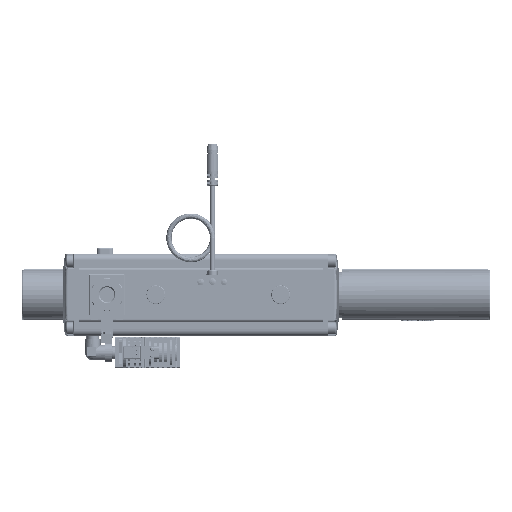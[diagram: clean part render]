
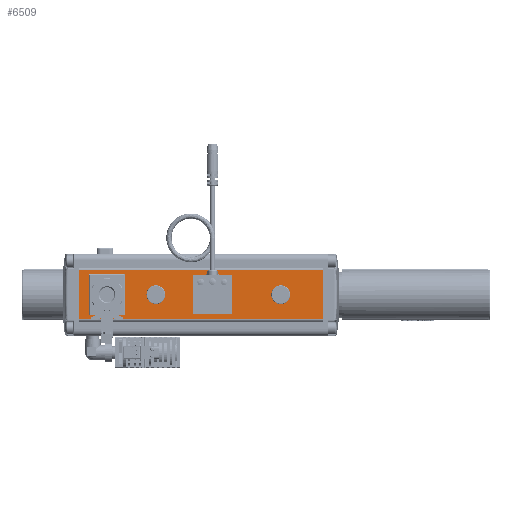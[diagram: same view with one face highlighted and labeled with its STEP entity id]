
A CAD part, top view. The second image highlights one B-rep face of the part: STEP entity #6509.
In plain terms, the highlighted planar face has unit normal (0, 0, 1).
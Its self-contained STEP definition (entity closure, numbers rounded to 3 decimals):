
#6509 = ADVANCED_FACE( '', ( #15160, #15161, #15162, #15163, #15164 ), #15165, .F. );
#15160 = FACE_OUTER_BOUND( '', #27380, .T. );
#15161 = FACE_BOUND( '', #27381, .T. );
#15162 = FACE_BOUND( '', #27382, .T. );
#15163 = FACE_BOUND( '', #27383, .T. );
#15164 = FACE_BOUND( '', #27384, .T. );
#15165 = PLANE( '', #27385 );
#27380 = EDGE_LOOP( '', ( #48247, #48248, #48249, #48250 ) );
#27381 = EDGE_LOOP( '', ( #48251 ) );
#27382 = EDGE_LOOP( '', ( #48252 ) );
#27383 = EDGE_LOOP( '', ( #48253 ) );
#27384 = EDGE_LOOP( '', ( #48254 ) );
#27385 = AXIS2_PLACEMENT_3D( '', #48255, #48256, #48257 );
#48247 = ORIENTED_EDGE( '', *, *, #71182, .T. );
#48248 = ORIENTED_EDGE( '', *, *, #71442, .T. );
#48249 = ORIENTED_EDGE( '', *, *, #72245, .F. );
#48250 = ORIENTED_EDGE( '', *, *, #69444, .F. );
#48251 = ORIENTED_EDGE( '', *, *, #70232, .T. );
#48252 = ORIENTED_EDGE( '', *, *, #70851, .F. );
#48253 = ORIENTED_EDGE( '', *, *, #72246, .F. );
#48254 = ORIENTED_EDGE( '', *, *, #72247, .F. );
#48255 = CARTESIAN_POINT( '', ( 169.5, -19., 35.875 ) );
#48256 = DIRECTION( '', ( 0., 0., -1. ) );
#48257 = DIRECTION( '', ( 0., -1., 0. ) );
#69444 = EDGE_CURVE( '', #84056, #84058, #84059, .T. );
#70232 = EDGE_CURVE( '', #85306, #85306, #85307, .T. );
#70851 = EDGE_CURVE( '', #86242, #86242, #86243, .T. );
#71182 = EDGE_CURVE( '', #84056, #86743, #86745, .T. );
#71442 = EDGE_CURVE( '', #86743, #87119, #87121, .T. );
#72245 = EDGE_CURVE( '', #84058, #87119, #88287, .T. );
#72246 = EDGE_CURVE( '', #88288, #88288, #88289, .T. );
#72247 = EDGE_CURVE( '', #88290, #88290, #88291, .T. );
#84056 = VERTEX_POINT( '', #105503 );
#84058 = VERTEX_POINT( '', #105505 );
#84059 = LINE( '', #105506, #105507 );
#85306 = VERTEX_POINT( '', #107317 );
#85307 = ELLIPSE( '', #107318, 4.864, 4.864 );
#86242 = VERTEX_POINT( '', #108945 );
#86243 = CIRCLE( '', #108946, 7.3 );
#86743 = VERTEX_POINT( '', #109701 );
#86745 = LINE( '', #109703, #109704 );
#87119 = VERTEX_POINT( '', #110338 );
#87121 = LINE( '', #110340, #110341 );
#88287 = LINE( '', #112250, #112251 );
#88288 = VERTEX_POINT( '', #112252 );
#88289 = CIRCLE( '', #112253, 7.3 );
#88290 = VERTEX_POINT( '', #112254 );
#88291 = CIRCLE( '', #112255, 5.723 );
#105503 = CARTESIAN_POINT( '', ( 169.5, 19., 35.875 ) );
#105505 = CARTESIAN_POINT( '', ( 169.5, -19., 35.875 ) );
#105506 = CARTESIAN_POINT( '', ( 169.5, -27., 35.875 ) );
#105507 = VECTOR( '', #126713, 1000. );
#107317 = CARTESIAN_POINT( '', ( 83.5, 5.087, 35.875 ) );
#107318 = AXIS2_PLACEMENT_3D( '', #127647, #127648, #127649 );
#108945 = CARTESIAN_POINT( '', ( 136.5, 7.3, 35.875 ) );
#108946 = AXIS2_PLACEMENT_3D( '', #128334, #128335, #128336 );
#109701 = CARTESIAN_POINT( '', ( -20.5, 19., 35.875 ) );
#109703 = CARTESIAN_POINT( '', ( 169.5, 19., 35.875 ) );
#109704 = VECTOR( '', #128713, 1000. );
#110338 = CARTESIAN_POINT( '', ( -20.5, -19., 35.875 ) );
#110340 = CARTESIAN_POINT( '', ( -20.5, -19., 35.875 ) );
#110341 = VECTOR( '', #128976, 1000. );
#112250 = CARTESIAN_POINT( '', ( 169.5, -19., 35.875 ) );
#112251 = VECTOR( '', #129845, 1000. );
#112252 = CARTESIAN_POINT( '', ( 39.5, 7.3, 35.875 ) );
#112253 = AXIS2_PLACEMENT_3D( '', #129846, #129847, #129848 );
#112254 = CARTESIAN_POINT( '', ( 1.5, 5.723, 35.875 ) );
#112255 = AXIS2_PLACEMENT_3D( '', #129849, #129850, #129851 );
#126713 = DIRECTION( '', ( 0., -1., 0. ) );
#127647 = CARTESIAN_POINT( '', ( 83.5, 0.223, 35.875 ) );
#127648 = DIRECTION( '', ( 0., 0., -1. ) );
#127649 = DIRECTION( '', ( 0., 1., 0. ) );
#128334 = CARTESIAN_POINT( '', ( 136.5, 0., 35.875 ) );
#128335 = DIRECTION( '', ( 0., 0., 1. ) );
#128336 = DIRECTION( '', ( 0., 1., 0. ) );
#128713 = DIRECTION( '', ( -1., 0., 0. ) );
#128976 = DIRECTION( '', ( 0., -1., 0. ) );
#129845 = DIRECTION( '', ( -1., 0., 0. ) );
#129846 = CARTESIAN_POINT( '', ( 39.5, 0., 35.875 ) );
#129847 = DIRECTION( '', ( 0., 0., 1. ) );
#129848 = DIRECTION( '', ( 0., 1., 0. ) );
#129849 = CARTESIAN_POINT( '', ( 1.5, 0., 35.875 ) );
#129850 = DIRECTION( '', ( 0., 0., 1. ) );
#129851 = DIRECTION( '', ( 0., 1., 0. ) );
